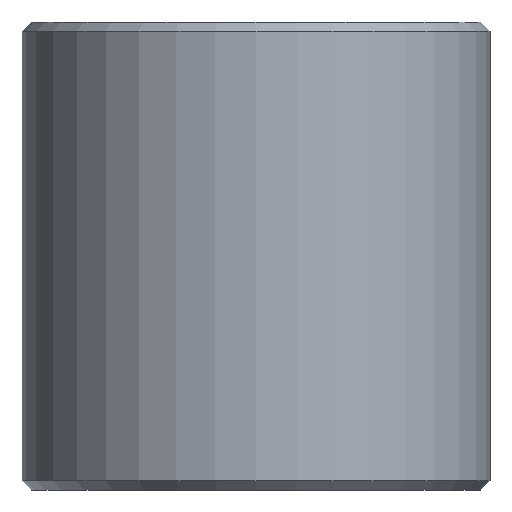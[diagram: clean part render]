
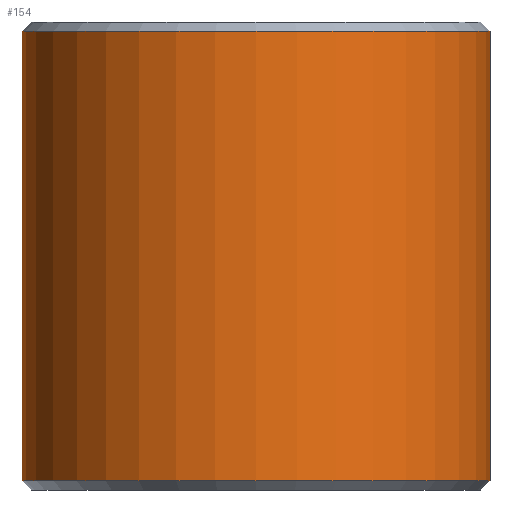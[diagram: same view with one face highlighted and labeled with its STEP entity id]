
A CAD part, front view. The second image highlights one B-rep face of the part: STEP entity #154.
In plain terms, the highlighted cylindrical face has radius 12.7 mm (diameter 25.4 mm), a full revolution.
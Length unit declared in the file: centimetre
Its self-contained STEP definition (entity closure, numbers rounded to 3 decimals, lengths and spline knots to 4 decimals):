
#39=CYLINDRICAL_SURFACE('',#174,1.27);
#47=VERTEX_POINT('',#205);
#48=VERTEX_POINT('',#208);
#59=CIRCLE('',#173,1.27);
#60=CIRCLE('',#175,1.27);
#71=EDGE_CURVE('',#47,#47,#59,.T.);
#72=EDGE_CURVE('',#48,#48,#60,.T.);
#88=ORIENTED_EDGE('',*,*,#72,.F.);
#89=ORIENTED_EDGE('',*,*,#71,.F.);
#112=EDGE_LOOP('',(#88));
#113=EDGE_LOOP('',(#89));
#136=FACE_BOUND('',#112,.T.);
#137=FACE_BOUND('',#113,.T.);
#154=ADVANCED_FACE('',(#136,#137),#39,.T.);
#173=AXIS2_PLACEMENT_3D('',#204,#244,#245);
#174=AXIS2_PLACEMENT_3D('',#206,#246,#247);
#175=AXIS2_PLACEMENT_3D('',#207,#248,#249);
#204=CARTESIAN_POINT('',(0.,0.,-1.2192));
#205=CARTESIAN_POINT('',(1.27,0.,-1.2192));
#206=CARTESIAN_POINT('',(0.,0.,-1.27));
#207=CARTESIAN_POINT('',(0.,0.,1.2192));
#208=CARTESIAN_POINT('',(1.27,0.,1.2192));
#244=DIRECTION('',(0.,0.,-1.));
#245=DIRECTION('',(-1.27,0.,0.));
#246=DIRECTION('',(0.,0.,1.));
#247=DIRECTION('',(1.27,0.,0.));
#248=DIRECTION('',(0.,0.,1.));
#249=DIRECTION('',(-1.27,0.,0.));
